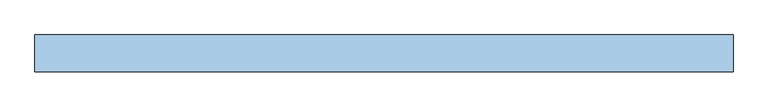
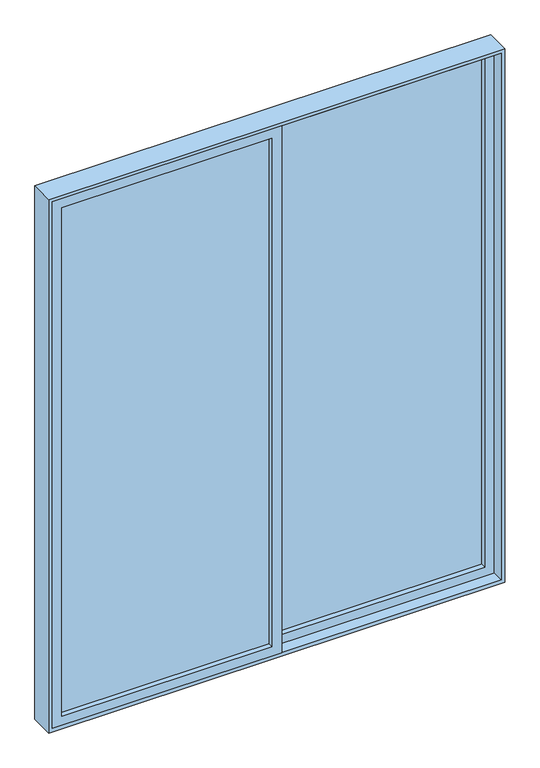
"""IFC4 building model written with IfcOpenShell, lengths in millimetres: window geometry, VENT_ALUM_CORR_2HOJAS_CORRE 1 : V13-VENT_ALUM_CORR_2HOJAS_CORRE 2 - SALIDA PH 2."""

from ifc_helpers import new_model, si_unit, frame, origin, place, context, project, spatial, polyline, outline, extrude, source, transform, mapped, element, save


def window_61701810(model_context):
    return source(origin(), model_context, "Body", "SweptSolid", [
        extrude(outline(polyline([(-20.0, -28.0), (-895.0, -28.0), (-895.0, -22.0), (-20.0, -22.0), (-20.0, -28.0)])), frame((0.0, 0.0, 55.0), z_axis=(0.0, 0.0, 1.0), x_axis=(1.0, 0.0, 0.0)), (0.0, 0.0, 1.0), 2240.0),
        extrude(outline(polyline([(15.0, -935.0), (15.0, 20.0), (2335.0, 20.0), (2335.0, -935.0), (15.0, -935.0)]), holes=[polyline([(2295.0, -895.0), (2295.0, -20.0), (55.0, -20.0), (55.0, -895.0), (2295.0, -895.0)])]), frame((0.0, -50.0, 0.0), z_axis=(0.0, 1.0, 0.0), x_axis=(0.0, 0.0, 1.0)), (0.0, 0.0, 1.0), 50.0),
        extrude(outline(polyline([(20.0, 28.0), (895.0, 28.0), (895.0, 22.0), (20.0, 22.0), (20.0, 28.0)])), frame((0.0, 0.0, 55.0), z_axis=(0.0, 0.0, 1.0), x_axis=(1.0, 0.0, 0.0)), (0.0, 0.0, 1.0), 2240.0),
        extrude(outline(polyline([(15.0, -20.0), (15.0, 935.0), (2335.0, 935.0), (2335.0, -20.0), (15.0, -20.0)]), holes=[polyline([(2295.0, 20.0), (2295.0, 895.0), (55.0, 895.0), (55.0, 20.0), (2295.0, 20.0)])]), frame((0.0, 0.0, 0.0), z_axis=(0.0, 1.0, 0.0), x_axis=(0.0, 0.0, 1.0)), (0.0, 0.0, 1.0), 50.0),
        extrude(outline(polyline([(0.0, -950.0), (0.0, 950.0), (2350.0, 950.0), (2350.0, -950.0), (0.0, -950.0)]), holes=[polyline([(2335.0, -935.0), (2335.0, 935.0), (15.0, 935.0), (15.0, -935.0), (2335.0, -935.0)])]), frame((0.0, -50.0, 0.0), z_axis=(0.0, 1.0, 0.0), x_axis=(0.0, 0.0, 1.0)), (0.0, 0.0, 1.0), 100.0),
    ])


if __name__ == "__main__":
    model = new_model("IFC4")
    model_context = context("Model", 3, world=origin())
    ifc_project = project(units=[si_unit("LENGTHUNIT", "METRE", prefix="MILLI")], contexts=[model_context])
    site = spatial("IfcSite", under=ifc_project)
    building = spatial("IfcBuilding", under=site)
    placement = place(None, origin())
    window_shape = window_61701810(model_context)
    element("IfcWindow", 1, ObjectType="VENT_ALUM_CORR_2HOJAS_CORRE 1 : V13-VENT_ALUM_CORR_2HOJAS_CORRE 2 - SALIDA PH 2", at=placement, inside=building, context=model_context, shape_type="MappedRepresentation", body=[
        mapped(window_shape, transform((0.0, 0.0, 0.0), x_axis=(1.0, 0.0, 0.0), y_axis=(0.0, 1.0, 0.0), z_axis=(0.0, 0.0, 1.0))),
    ])
    save(model, "model.ifc")
